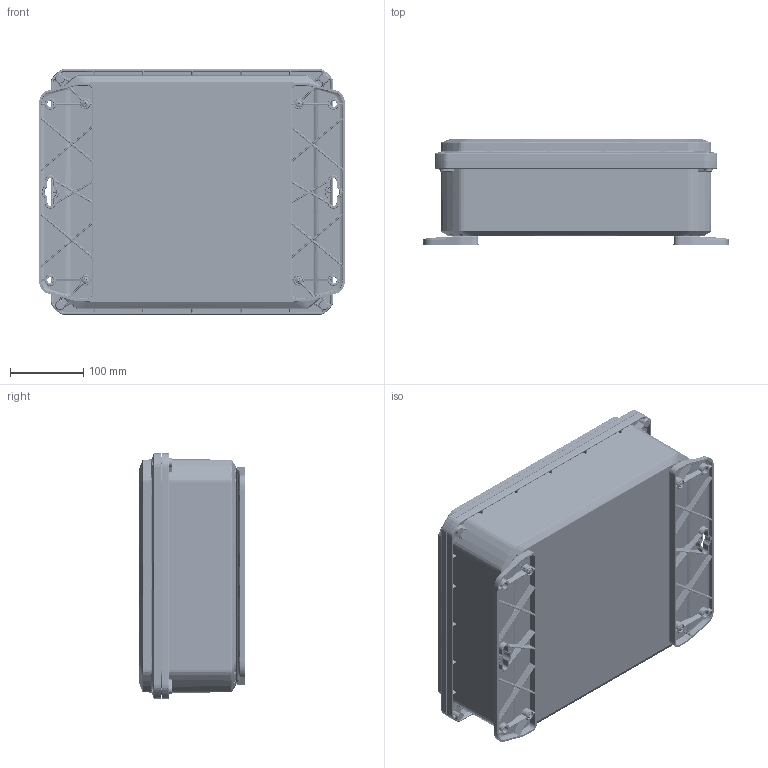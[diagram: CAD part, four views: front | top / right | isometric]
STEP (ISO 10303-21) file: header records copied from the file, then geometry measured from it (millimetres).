
FILE_DESCRIPTION (( 'STEP AP214' ), '1' );
FILE_NAME ('ZQ-141204-24.STEP', '2024-10-25T19:31:54', ( '' ), ( '' ), 'SwSTEP 2.0', 'SolidWorks 2024', '' );
FILE_SCHEMA (( 'AUTOMOTIVE_DESIGN' ));
Products named in the file (11): INSERTS-4; Z_-14121C_ZQ-14121C-01; ZQ-141204-24; LABEL-104; ZH-12F_ZH-12F-01; SCREWS-046_SCREWS-046; Z_-14124BI_ZQ-14124BI-01; Z_-14124B_ZQ-14124B-01; SCREWS-047_default; ZH-1412G; Z_-14121CG_ZQ-14121CG-01
Assembly tree (28 placements, depth 3):
  ZQ-141204-24
    Z_-14124BI_ZQ-14124BI-01
      Z_-14124B_ZQ-14124B-01
      INSERTS-4  x12
      LABEL-104
    Z_-14121CG_ZQ-14121CG-01
      Z_-14121C_ZQ-14121C-01
      ZH-1412G
    SCREWS-046_SCREWS-046  x4
    SCREWS-047_default  x4
    ZH-12F_ZH-12F-01  x2
Bounding box: 419.1 x 145.34 x 336.3 mm (x, y, z)
Volume: 2248420.4 mm3; surface area: 1100692.9 mm2
Topology: 26 solids, 26 shells, 7608 faces, 18604 edges, 10946 vertices
Faces by surface type: bspline 2276, cylinder 1568, cone 1410, plane 1368, torus 950, sphere 36
Entity records: 277929 total; most frequent: CARTESIAN_POINT 173592, ORIENTED_EDGE 23914, DIRECTION 19273, EDGE_CURVE 11957, AXIS2_PLACEMENT_3D 8270, VERTEX_POINT 6982, EDGE_LOOP 5345, ADVANCED_FACE 5157
